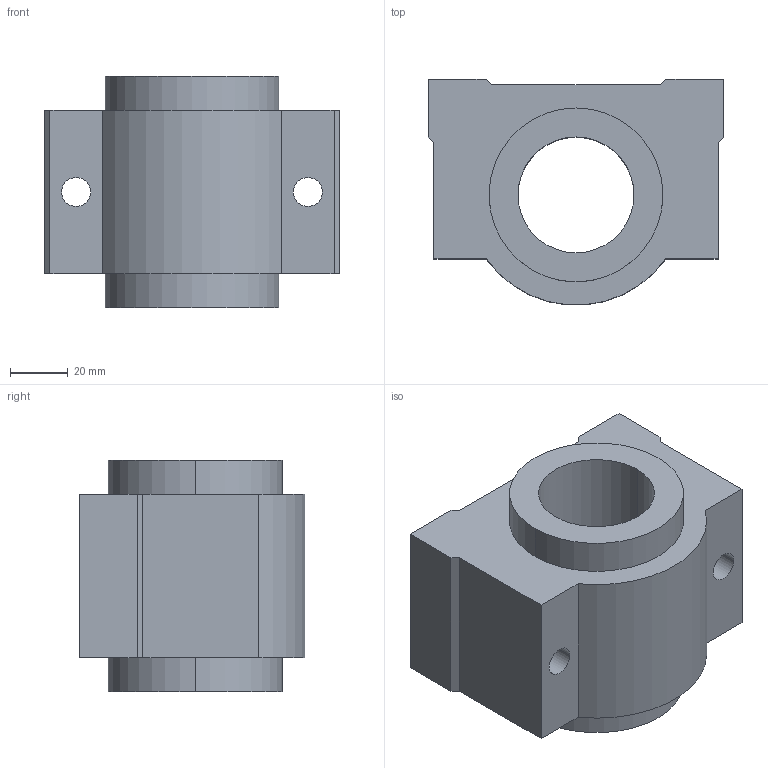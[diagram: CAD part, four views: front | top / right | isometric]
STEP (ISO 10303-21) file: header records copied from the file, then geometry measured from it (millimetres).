
FILE_DESCRIPTION((''),'2;1');
FILE_NAME('C:\Documents and Settings\ｿﾀﾀ蠑ｷ1\ｹﾙﾅﾁ ﾈｭｸ饅\ｺﾎﾇｰﾆﾄﾀﾏ\ﾁｦﾇｰ\SCE__VUU\SCE40VUU.stp','2005-06-22T15:09:18',('ｿﾀﾀ蠑ｷ1'),(''),'Autodesk Inventor 9','Autodesk Inventor 9','');
FILE_SCHEMA(('AUTOMOTIVE_DESIGN { 1 0 10303 214 1 1 1 1 }'));
Length unit declared in the file: millimetre
Products named in the file (1): SCE__VUU
Bounding box: 102 x 77.86 x 80 mm (x, y, z)
Volume: 336312.8 mm3; surface area: 48091.2 mm2
Topology: 1 solids, 1 shells, 28 faces, 72 edges, 48 vertices
Faces by surface type: plane 17, cylinder 7, bspline 4
Entity records: 945 total; most frequent: CARTESIAN_POINT 217, DIRECTION 144, ORIENTED_EDGE 144, EDGE_CURVE 72, VECTOR 50, LINE 50, VERTEX_POINT 48, AXIS2_PLACEMENT_3D 47
